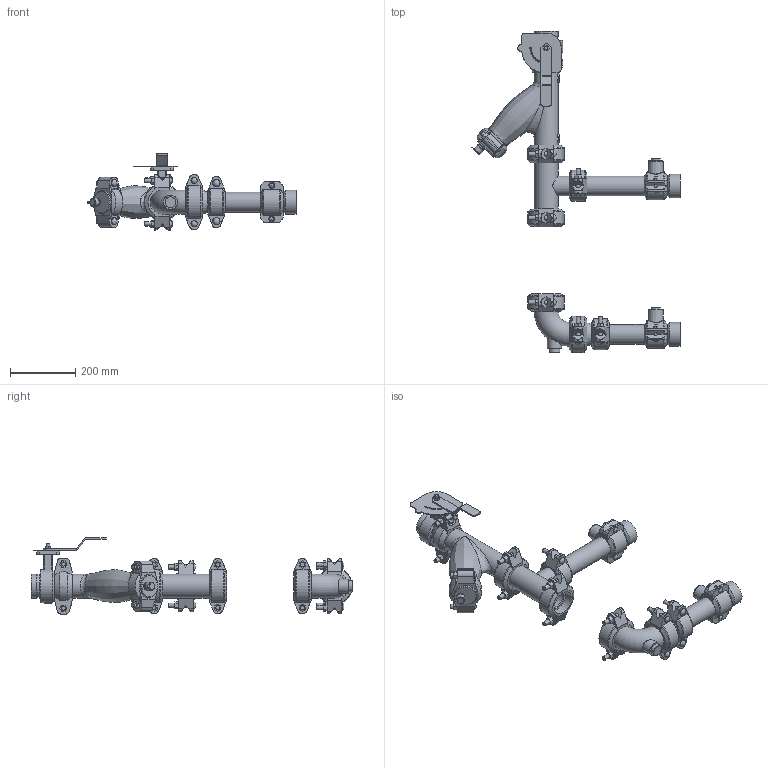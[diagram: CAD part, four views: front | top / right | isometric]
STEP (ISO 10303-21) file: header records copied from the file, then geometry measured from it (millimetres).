
FILE_DESCRIPTION(/* description */ ('VIC SVI DOUBLE COIL AHU DROP LOW PROFILE SERIES 385H (OGSxFPT)','CAx-IF Rec.Pracs.---Representation and Presentation of Product Manufacturing Information (PMI)---4.0---2014-10-13'),/* implementation_level */ '2;1');
FILE_NAME(/* name */ 'C:\Users\Vjadhav\AppData\Roaming\Autodesk\ApplicationPlugins\Victaulic.Temp\A526\Victaulic_IPS_SVI_Double Coil_Low Profile_Series 385H (OGSxFPT)_02.5x02.0 (65x50).stp',/* time_stamp */ '2021-03-17T15:41:17+05:00',/* author */ ('Vjadhav'),/* organization */ ('Victaulic'),/* preprocessor_version */ 'ST-DEVELOPER v17.2',/* originating_system */ 'Autodesk Inventor 2019',/* authorisation */ '');
FILE_SCHEMA (('AP242_MANAGED_MODEL_BASED_3D_ENGINEERING_MIM_LF { 1 0 10303 442 1 1 4 }'));
Length unit declared in the file: inch
Products named in the file (16): 385H-02.5x02.0; Pipe-02.0; 050-02.5x02.0; 10-DR-02.5; 025-02.5x02.0; 177N-02.5; 732-02.5; 732-02.5_1; 07-02.5; 732-02.5_2; 107N-02.5; 761-02.5; 177N-02.0; Pipe_(8 3/4")-02.0; 072-02.0x0.75; 080-02.0
Assembly tree (21 placements, depth 3):
  385H-02.5x02.0
    080-02.0  x2
    072-02.0x0.75  x2
    Pipe-02.0
    177N-02.0  x2
    050-02.5x02.0
    177N-02.5  x4
    10-DR-02.5
    025-02.5x02.0
    732-02.5
      732-02.5_1
      07-02.5
      732-02.5_2
    107N-02.5
    761-02.5
    Pipe_(8 3/4")-02.0
Bounding box: 636.84 x 982.47 x 233.55 mm (x, y, z)
Volume: 5446433.8 mm3; surface area: 1311145.9 mm2
Topology: 20 solids, 23 shells, 1224 faces, 3293 edges, 2195 vertices
Faces by surface type: plane 665, cylinder 402, torus 53, cone 47, bspline 41, sphere 16
Full cylindrical faces by diameter (mm): 4.826 x10, 7.62 x8, 8.636 x4, 10.922 x2, 11.43 x4, 12.7 x20, 17.78 x4, 19.05 x8, 20.93 x2, 21.336 x2, 22.225 x8, 22.86 x1, 23.876 x1, 25.146 x1, 26.67 x2, 26.987 x1, 33.401 x1, 43.18 x1, 47.625 x2, 52.502 x6, 55.118 x1, 57.15 x8, 57.531 x1, 58.42 x2, 59.157 x1, 59.309 x1, 60.325 x27, 62.713 x3, 66.675 x1, 69.088 x11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
Entity records: 29246 total; most frequent: CARTESIAN_POINT 8368, DIRECTION 4245, ORIENTED_EDGE 3992, EDGE_CURVE 1996, AXIS2_PLACEMENT_3D 1634, VERTEX_POINT 1341, LINE 977, VECTOR 977
